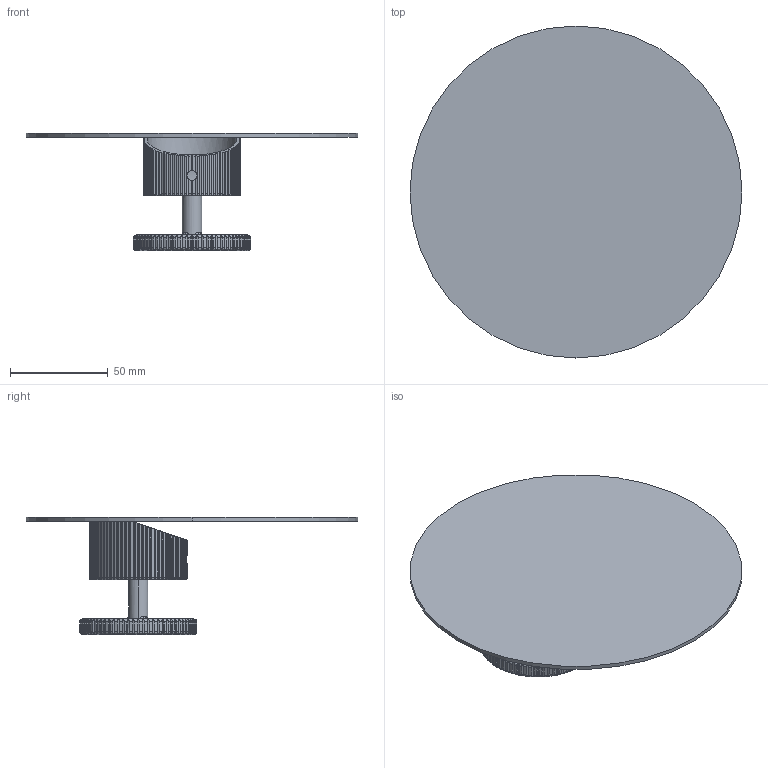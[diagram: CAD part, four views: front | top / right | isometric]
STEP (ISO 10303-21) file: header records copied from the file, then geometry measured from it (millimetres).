
FILE_DESCRIPTION (( 'STEP AP203' ), '1' );
FILE_NAME ('78218010 x architetti.STEP', '2023-10-20T08:54:25', ( '' ), ( '' ), 'SwSTEP 2.0', 'SolidWorks 2020', '' );
FILE_SCHEMA (( 'CONFIG_CONTROL_DESIGN' ));
Products named in the file (1): 78218010 x architetti
Bounding box: 170 x 170 x 60 mm (x, y, z)
Volume: 98008.1 mm3; surface area: 62412 mm2
Topology: 1 solids, 1 shells, 780 faces, 1990 edges, 1208 vertices
Faces by surface type: cylinder 575, bspline 192, plane 13
Entity records: 47925 total; most frequent: CARTESIAN_POINT 30653, ORIENTED_EDGE 3972, DIRECTION 3272, EDGE_CURVE 1986, AXIS2_PLACEMENT_3D 1338, VERTEX_POINT 1208, EDGE_LOOP 786, ADVANCED_FACE 780
